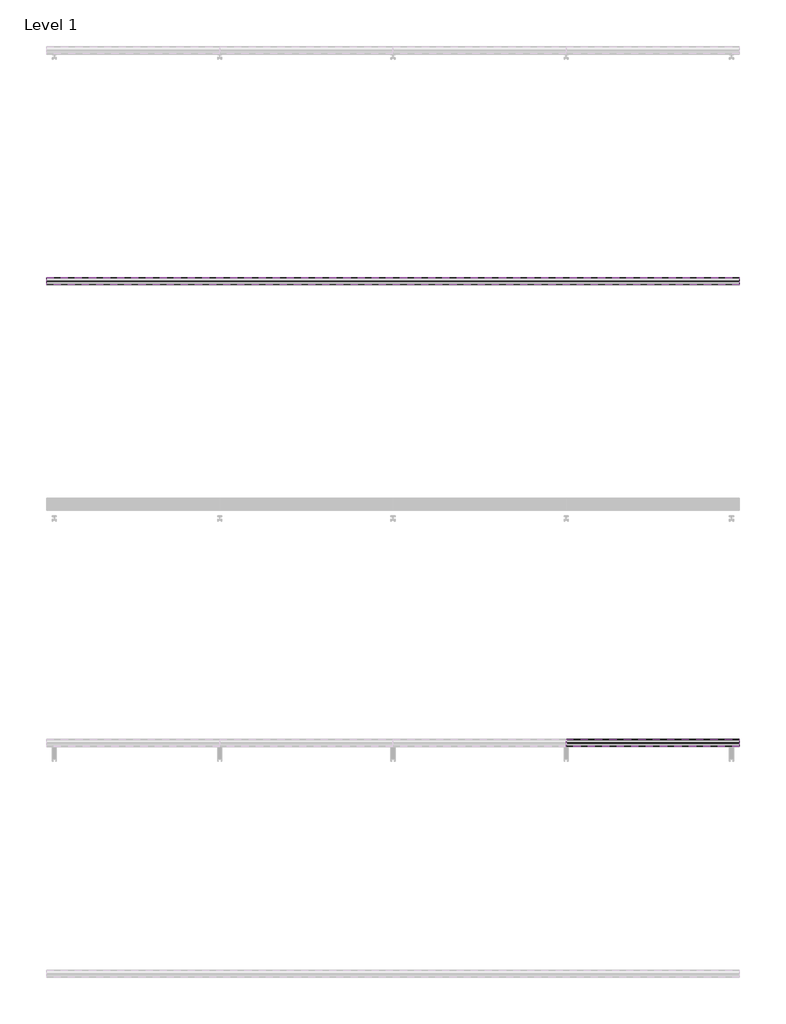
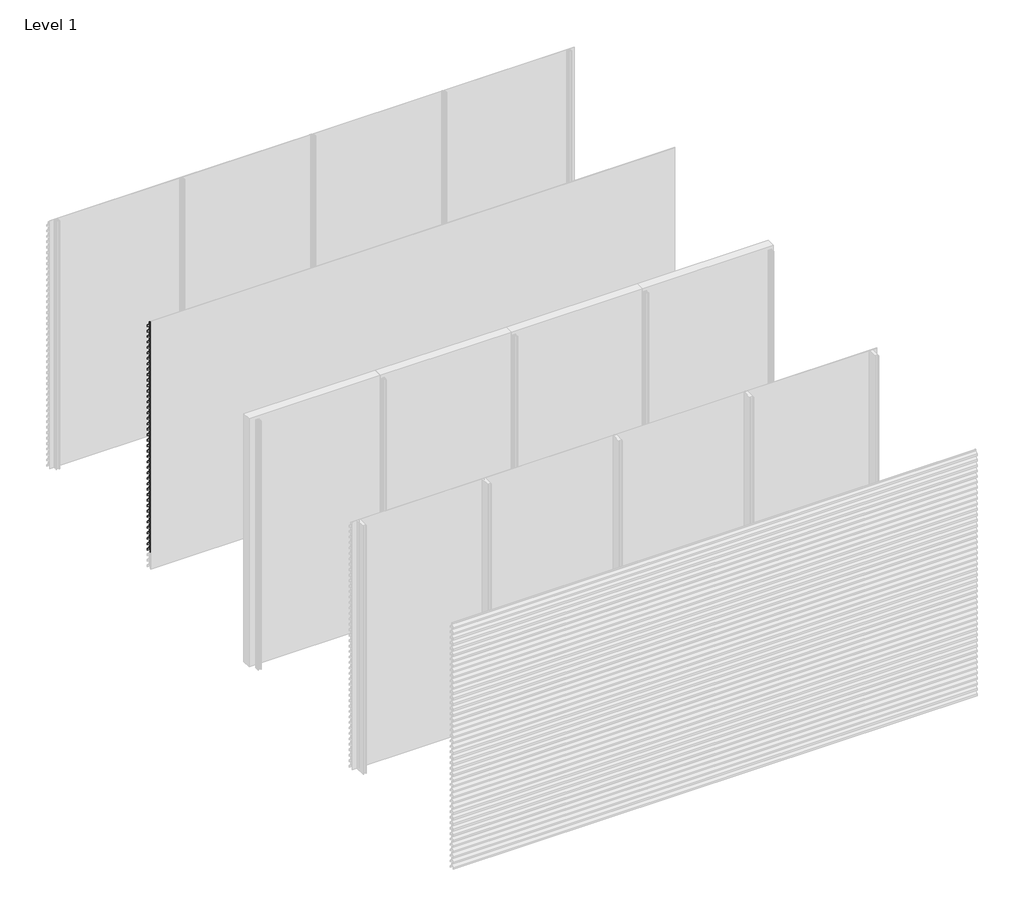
# One storey, part 9 of 35: 70 proxies.
"""IFC4 building model written with IfcOpenShell, lengths in millimetres."""

import ifcopenshell
import ifcopenshell.guid

model = None  # the IFC model being written
_history = None  # IfcOwnerHistory: only IFC2X3 demands one
_inside = {}  # id of a spatial element -> (the spatial element, [elements in it])
_under = {}  # id of a project, library or spatial element -> (it, [spatial elements below it])
_declared = {}  # id of a project -> (the project, [libraries it declares])
_typed = {}  # id of a type object -> (the type object, [elements of that type])
_made_of = {}  # id of a material, layer set ... -> (it, [elements and type objects made of it])


def new_model(schema):
    """Start an empty IFC model of exactly this schema.

    Asked for "IFC4X3", IfcOpenShell would pick the latest addendum, in which some entities
    have other attributes; the version numbers below select the first issue.
    IFC2X3 requires an IfcOwnerHistory on every rooted entity: one is made here for all.
    """
    global model, _history
    if schema == "IFC4X3":
        model = ifcopenshell.file(schema_version=(4, 3, 0, 0))
    else:
        model = ifcopenshell.file(schema=schema)
    _inside.clear()
    _under.clear()
    _declared.clear()
    _typed.clear()
    _made_of.clear()
    _history = None
    if model.schema == "IFC2X3":
        org = make("IfcOrganization", Name="unknown")
        user = make(
            "IfcPersonAndOrganization",
            ThePerson=make("IfcPerson", FamilyName="unknown"),
            TheOrganization=org,
        )
        app = make(
            "IfcApplication",
            ApplicationDeveloper=org,
            Version="unknown",
            ApplicationFullName="unknown",
            ApplicationIdentifier="unknown",
        )
        _history = make(
            "IfcOwnerHistory",
            OwningUser=user,
            OwningApplication=app,
            ChangeAction="ADDED",
            CreationDate=0,
        )
    return model


def make(cls, **values):
    """One entity of the class cls with the attributes given. An attribute that is None is left unset."""
    return model.create_entity(
        cls, **{name: value for name, value in values.items() if value is not None}
    )


def rooted(cls, **values):
    """An entity with a GlobalId (a new one), such as an element, a storey or a relation."""
    return make(cls, GlobalId=ifcopenshell.guid.new(), OwnerHistory=_history, **values)


def si_unit(unit_type, name, prefix=None):
    """IfcSIUnit, for example si_unit("LENGTHUNIT", "METRE", prefix="MILLI")."""
    return make("IfcSIUnit", UnitType=unit_type, Prefix=prefix, Name=name)


def assignment(units):
    """IfcUnitAssignment: the units of a project."""
    return None if units is None else make("IfcUnitAssignment", Units=units)


def point(xyz):
    """IfcCartesianPoint."""
    return None if xyz is None else make("IfcCartesianPoint", Coordinates=xyz)


def direction(xyz):
    """IfcDirection."""
    return None if xyz is None else make("IfcDirection", DirectionRatios=xyz)


def frame(location, z_axis=None, x_axis=None):
    """IfcAxis2Placement3D, a coordinate frame: its origin and axes. An axis left out is left unset."""
    return make(
        "IfcAxis2Placement3D",
        Location=point(location),
        Axis=direction(z_axis),
        RefDirection=direction(x_axis),
    )


def origin():
    """The frame at (0, 0, 0) with its axes left unset."""
    return frame((0.0, 0.0, 0.0))


def place(relative_to, where):
    """IfcLocalPlacement: puts the frame where relative to a parent placement (None: the world)."""
    return make(
        "IfcLocalPlacement", PlacementRelTo=relative_to, RelativePlacement=where
    )


def context(
    kind, dimensions, precision=None, world=None, true_north=None, identifier=None
):
    """IfcGeometricRepresentationContext, for example the 3D "Model" context."""
    return make(
        "IfcGeometricRepresentationContext",
        ContextIdentifier=identifier,
        ContextType=kind,
        CoordinateSpaceDimension=dimensions,
        Precision=precision,
        WorldCoordinateSystem=world,
        TrueNorth=true_north,
    )


def project(units=None, contexts=None):
    """IfcProject with its units and contexts."""
    return rooted(
        "IfcProject",
        Name="project",
        RepresentationContexts=contexts,
        UnitsInContext=assignment(units),
    )


def spatial(cls, under=None, at=None, **own):
    """A site, building, storey or space (cls), placed at a placement, below another one or the project."""
    s = rooted(cls, ObjectPlacement=at, **own)
    if under is not None:
        _under.setdefault(under.id(), (under, []))[1].append(s)
    return s


def polyline(points):
    """IfcPolyline through the points."""
    return make("IfcPolyline", Points=[point(p) for p in points])


def outline(outer, holes=None, kind="AREA"):
    """IfcArbitraryClosedProfileDef: a profile drawn as a closed curve; with holes, ...WithVoids."""
    if holes is None:
        return make("IfcArbitraryClosedProfileDef", ProfileType=kind, OuterCurve=outer)
    return make(
        "IfcArbitraryProfileDefWithVoids",
        ProfileType=kind,
        OuterCurve=outer,
        InnerCurves=holes,
    )


def extrude(swept, where, along, depth):
    """IfcExtrudedAreaSolid: the profile swept, set in the frame where, extruded along a direction by depth."""
    return make(
        "IfcExtrudedAreaSolid",
        SweptArea=swept,
        Position=where,
        ExtrudedDirection=direction(along),
        Depth=depth,
    )


def shape(context_of_items, identifier, shape_type, items):
    """IfcShapeRepresentation: the items that make up one representation, for example the "Body"."""
    return make(
        "IfcShapeRepresentation",
        ContextOfItems=context_of_items,
        RepresentationIdentifier=identifier,
        RepresentationType=shape_type,
        Items=items,
    )


def made_of(thing, what):
    """Note that an element or type object is made of a material, layer set ...; save() writes the relation."""
    if what is not None:
        _made_of.setdefault(what.id(), (what, []))[1].append(thing)
    return thing


def element(
    cls,
    number,
    at=None,
    inside=None,
    cuts=None,
    type_object=None,
    material=None,
    context=None,
    identifier="Body",
    shape_type=None,
    held_by="IfcProductDefinitionShape",
    body=None,
    shapes=None,
    **own,
):
    """One element of the class cls, such as IfcWall. Its Tag is "e" and its number.

    at: its placement. inside: the storey or other place that contains it. cuts: it is an
    opening in that element (IfcRelVoidsElement). A single representation is given by context,
    identifier, shape_type and body (its items); several are given by shapes. held_by: the class
    of the entity that holds the representations. save() writes the other relations.
    """
    e = rooted(cls, Tag="e%d" % number, ObjectPlacement=at, **own)
    if body is not None:
        shapes = [shape(context, identifier, shape_type, body)]
    if shapes is not None:
        e.Representation = make(held_by, Representations=shapes)
    if inside is not None:
        _inside.setdefault(inside.id(), (inside, []))[1].append(e)
    if cuts is not None:
        rooted(
            "IfcRelVoidsElement", RelatingBuildingElement=cuts, RelatedOpeningElement=e
        )
    if type_object is not None:
        _typed.setdefault(type_object.id(), (type_object, []))[1].append(e)
    return made_of(e, material)


def aggregate(whole, parts):
    """IfcRelAggregates: a whole, such as a stair, and the parts it consists of."""
    return rooted("IfcRelAggregates", RelatingObject=whole, RelatedObjects=parts)


def save(model, path):
    """Write the relations noted so far, then the file.

    IfcRelAggregates (storeys below a building ...), IfcRelContainedInSpatialStructure (elements
    in a storey), IfcRelDefinesByType, IfcRelAssociatesMaterial and IfcRelDeclares: one each for
    every whole, place, type object, material and project.
    """
    for whole, parts in _under.values():
        aggregate(whole, parts)
    for where, things in _inside.values():
        rooted(
            "IfcRelContainedInSpatialStructure",
            RelatedElements=things,
            RelatingStructure=where,
        )
    for kind, things in _typed.values():
        rooted("IfcRelDefinesByType", RelatedObjects=things, RelatingType=kind)
    for what, things in _made_of.values():
        rooted("IfcRelAssociatesMaterial", RelatedObjects=things, RelatingMaterial=what)
    for by, libraries in _declared.values():
        rooted("IfcRelDeclares", RelatingContext=by, RelatedDefinitions=libraries)
    model.write(path)


model = new_model("IFC4")

# Units and contexts
model_context = context("Model", 3, world=origin())
ifc_project = project(units=[si_unit("LENGTHUNIT", "METRE", prefix="MILLI")], contexts=[model_context])

# Site, building, storey
site = spatial("IfcSite", under=ifc_project)
building = spatial("IfcBuilding", under=site)
storey = spatial("IfcBuildingStorey", under=building, Name="Level 1", Elevation=0.0)

# Proxies
placement = place(None, origin())
element("IfcBuildingElementProxy", 1, Name="Wall Sweeps", at=placement, inside=storey, context=model_context, shape_type="SweptSolid", body=[
    extrude(outline(polyline([(-43936.0, 2916.0), (-43936.0, 2896.0), (-43937.25, 2896.0), (-43937.25, 2915.4342979), (-43968.1138939, 2948.531772), (-43996.7, 2928.4392868), (-43996.7, 2909.6629874), (-43998.0, 2908.8506572), (-43998.0, 2929.1145472), (-43968.537525, 2949.823011), (-43968.537525, 2970.0), (-43967.1772624, 2970.0), (-43967.1772624, 2949.4335207), (-43936.0, 2916.0)])), frame((0.0, 0.0, 0.0), z_axis=(1.0, 0.0, 0.0), x_axis=(0.0, 1.0, 0.0)), (0.0, 0.0, 1.0), 6000.0),
])
element("IfcBuildingElementProxy", 2, Name="Wall Sweeps", at=placement, inside=storey, context=model_context, shape_type="SweptSolid", body=[
    extrude(outline(polyline([(-43936.0, 2850.0), (-43936.0, 2830.0), (-43937.25, 2830.0), (-43937.25, 2849.4342979), (-43968.1138939, 2882.531772), (-43996.7, 2862.4392868), (-43996.7, 2843.6629874), (-43998.0, 2842.8506572), (-43998.0, 2863.1145472), (-43968.537525, 2883.823011), (-43968.537525, 2904.0), (-43967.1772624, 2904.0), (-43967.1772624, 2883.4335207), (-43936.0, 2850.0)])), frame((0.0, 0.0, 0.0), z_axis=(1.0, 0.0, 0.0), x_axis=(0.0, 1.0, 0.0)), (0.0, 0.0, 1.0), 6000.0),
])
element("IfcBuildingElementProxy", 3, Name="Wall Sweeps", at=placement, inside=storey, context=model_context, shape_type="SweptSolid", body=[
    extrude(outline(polyline([(-43936.0, 2784.0), (-43936.0, 2764.0), (-43937.25, 2764.0), (-43937.25, 2783.4342979), (-43968.1138939, 2816.531772), (-43996.7, 2796.4392868), (-43996.7, 2777.6629874), (-43998.0, 2776.8506572), (-43998.0, 2797.1145472), (-43968.537525, 2817.823011), (-43968.537525, 2838.0), (-43967.1772624, 2838.0), (-43967.1772624, 2817.4335207), (-43936.0, 2784.0)])), frame((0.0, 0.0, 0.0), z_axis=(1.0, 0.0, 0.0), x_axis=(0.0, 1.0, 0.0)), (0.0, 0.0, 1.0), 6000.0),
])
element("IfcBuildingElementProxy", 4, Name="Wall Sweeps", at=placement, inside=storey, context=model_context, shape_type="SweptSolid", body=[
    extrude(outline(polyline([(-43936.0, 2718.0), (-43936.0, 2698.0), (-43937.25, 2698.0), (-43937.25, 2717.4342979), (-43968.1138939, 2750.531772), (-43996.7, 2730.4392868), (-43996.7, 2711.6629874), (-43998.0, 2710.8506572), (-43998.0, 2731.1145472), (-43968.537525, 2751.823011), (-43968.537525, 2772.0), (-43967.1772624, 2772.0), (-43967.1772624, 2751.4335207), (-43936.0, 2718.0)])), frame((0.0, 0.0, 0.0), z_axis=(1.0, 0.0, 0.0), x_axis=(0.0, 1.0, 0.0)), (0.0, 0.0, 1.0), 6000.0),
])
element("IfcBuildingElementProxy", 5, Name="Wall Sweeps", at=placement, inside=storey, context=model_context, shape_type="SweptSolid", body=[
    extrude(outline(polyline([(-43936.0, 2652.0), (-43936.0, 2632.0), (-43937.25, 2632.0), (-43937.25, 2651.4342979), (-43968.1138939, 2684.531772), (-43996.7, 2664.4392868), (-43996.7, 2645.6629874), (-43998.0, 2644.8506572), (-43998.0, 2665.1145472), (-43968.537525, 2685.823011), (-43968.537525, 2706.0), (-43967.1772624, 2706.0), (-43967.1772624, 2685.4335207), (-43936.0, 2652.0)])), frame((0.0, 0.0, 0.0), z_axis=(1.0, 0.0, 0.0), x_axis=(0.0, 1.0, 0.0)), (0.0, 0.0, 1.0), 6000.0),
])
element("IfcBuildingElementProxy", 6, Name="Wall Sweeps", at=placement, inside=storey, context=model_context, shape_type="SweptSolid", body=[
    extrude(outline(polyline([(-43936.0, 2586.0), (-43936.0, 2566.0), (-43937.25, 2566.0), (-43937.25, 2585.4342979), (-43968.1138939, 2618.531772), (-43996.7, 2598.4392868), (-43996.7, 2579.6629874), (-43998.0, 2578.8506572), (-43998.0, 2599.1145472), (-43968.537525, 2619.823011), (-43968.537525, 2640.0), (-43967.1772624, 2640.0), (-43967.1772624, 2619.4335207), (-43936.0, 2586.0)])), frame((0.0, 0.0, 0.0), z_axis=(1.0, 0.0, 0.0), x_axis=(0.0, 1.0, 0.0)), (0.0, 0.0, 1.0), 6000.0),
])
element("IfcBuildingElementProxy", 7, Name="Wall Sweeps", at=placement, inside=storey, context=model_context, shape_type="SweptSolid", body=[
    extrude(outline(polyline([(-43936.0, 2520.0), (-43936.0, 2500.0), (-43937.25, 2500.0), (-43937.25, 2519.4342979), (-43968.1138939, 2552.531772), (-43996.7, 2532.4392868), (-43996.7, 2513.6629874), (-43998.0, 2512.8506572), (-43998.0, 2533.1145472), (-43968.537525, 2553.823011), (-43968.537525, 2574.0), (-43967.1772624, 2574.0), (-43967.1772624, 2553.4335207), (-43936.0, 2520.0)])), frame((0.0, 0.0, 0.0), z_axis=(1.0, 0.0, 0.0), x_axis=(0.0, 1.0, 0.0)), (0.0, 0.0, 1.0), 6000.0),
])
element("IfcBuildingElementProxy", 8, Name="Wall Sweeps", at=placement, inside=storey, context=model_context, shape_type="SweptSolid", body=[
    extrude(outline(polyline([(-43936.0, 2454.0), (-43936.0, 2434.0), (-43937.25, 2434.0), (-43937.25, 2453.4342979), (-43968.1138939, 2486.531772), (-43996.7, 2466.4392868), (-43996.7, 2447.6629874), (-43998.0, 2446.8506572), (-43998.0, 2467.1145472), (-43968.537525, 2487.823011), (-43968.537525, 2508.0), (-43967.1772624, 2508.0), (-43967.1772624, 2487.4335207), (-43936.0, 2454.0)])), frame((0.0, 0.0, 0.0), z_axis=(1.0, 0.0, 0.0), x_axis=(0.0, 1.0, 0.0)), (0.0, 0.0, 1.0), 6000.0),
])
element("IfcBuildingElementProxy", 9, Name="Wall Sweeps", at=placement, inside=storey, context=model_context, shape_type="SweptSolid", body=[
    extrude(outline(polyline([(-43936.0, 2388.0), (-43936.0, 2368.0), (-43937.25, 2368.0), (-43937.25, 2387.4342979), (-43968.1138939, 2420.531772), (-43996.7, 2400.4392868), (-43996.7, 2381.6629874), (-43998.0, 2380.8506572), (-43998.0, 2401.1145472), (-43968.537525, 2421.823011), (-43968.537525, 2442.0), (-43967.1772624, 2442.0), (-43967.1772624, 2421.4335207), (-43936.0, 2388.0)])), frame((0.0, 0.0, 0.0), z_axis=(1.0, 0.0, 0.0), x_axis=(0.0, 1.0, 0.0)), (0.0, 0.0, 1.0), 6000.0),
])
element("IfcBuildingElementProxy", 10, Name="Wall Sweeps", at=placement, inside=storey, context=model_context, shape_type="SweptSolid", body=[
    extrude(outline(polyline([(-43936.0, 2322.0), (-43936.0, 2302.0), (-43937.25, 2302.0), (-43937.25, 2321.4342979), (-43968.1138939, 2354.531772), (-43996.7, 2334.4392868), (-43996.7, 2315.6629874), (-43998.0, 2314.8506572), (-43998.0, 2335.1145472), (-43968.537525, 2355.823011), (-43968.537525, 2376.0), (-43967.1772624, 2376.0), (-43967.1772624, 2355.4335207), (-43936.0, 2322.0)])), frame((0.0, 0.0, 0.0), z_axis=(1.0, 0.0, 0.0), x_axis=(0.0, 1.0, 0.0)), (0.0, 0.0, 1.0), 6000.0),
])
element("IfcBuildingElementProxy", 11, Name="Wall Sweeps", at=placement, inside=storey, context=model_context, shape_type="SweptSolid", body=[
    extrude(outline(polyline([(-43936.0, 2256.0), (-43936.0, 2236.0), (-43937.25, 2236.0), (-43937.25, 2255.4342979), (-43968.1138939, 2288.531772), (-43996.7, 2268.4392868), (-43996.7, 2249.6629874), (-43998.0, 2248.8506572), (-43998.0, 2269.1145472), (-43968.537525, 2289.823011), (-43968.537525, 2310.0), (-43967.1772624, 2310.0), (-43967.1772624, 2289.4335207), (-43936.0, 2256.0)])), frame((0.0, 0.0, 0.0), z_axis=(1.0, 0.0, 0.0), x_axis=(0.0, 1.0, 0.0)), (0.0, 0.0, 1.0), 6000.0),
])
element("IfcBuildingElementProxy", 12, Name="Wall Sweeps", at=placement, inside=storey, context=model_context, shape_type="SweptSolid", body=[
    extrude(outline(polyline([(-43936.0, 2190.0), (-43936.0, 2170.0), (-43937.25, 2170.0), (-43937.25, 2189.4342979), (-43968.1138939, 2222.531772), (-43996.7, 2202.4392868), (-43996.7, 2183.6629874), (-43998.0, 2182.8506572), (-43998.0, 2203.1145472), (-43968.537525, 2223.823011), (-43968.537525, 2244.0), (-43967.1772624, 2244.0), (-43967.1772624, 2223.4335207), (-43936.0, 2190.0)])), frame((0.0, 0.0, 0.0), z_axis=(1.0, 0.0, 0.0), x_axis=(0.0, 1.0, 0.0)), (0.0, 0.0, 1.0), 6000.0),
])
element("IfcBuildingElementProxy", 13, Name="Wall Sweeps", at=placement, inside=storey, context=model_context, shape_type="SweptSolid", body=[
    extrude(outline(polyline([(-43936.0, 2124.0), (-43936.0, 2104.0), (-43937.25, 2104.0), (-43937.25, 2123.4342979), (-43968.1138939, 2156.531772), (-43996.7, 2136.4392868), (-43996.7, 2117.6629874), (-43998.0, 2116.8506572), (-43998.0, 2137.1145472), (-43968.537525, 2157.823011), (-43968.537525, 2178.0), (-43967.1772624, 2178.0), (-43967.1772624, 2157.4335207), (-43936.0, 2124.0)])), frame((0.0, 0.0, 0.0), z_axis=(1.0, 0.0, 0.0), x_axis=(0.0, 1.0, 0.0)), (0.0, 0.0, 1.0), 6000.0),
])
element("IfcBuildingElementProxy", 14, Name="Wall Sweeps", at=placement, inside=storey, context=model_context, shape_type="SweptSolid", body=[
    extrude(outline(polyline([(-43936.0, 2058.0), (-43936.0, 2038.0), (-43937.25, 2038.0), (-43937.25, 2057.4342979), (-43968.1138939, 2090.531772), (-43996.7, 2070.4392868), (-43996.7, 2051.6629874), (-43998.0, 2050.8506572), (-43998.0, 2071.1145472), (-43968.537525, 2091.823011), (-43968.537525, 2112.0), (-43967.1772624, 2112.0), (-43967.1772624, 2091.4335207), (-43936.0, 2058.0)])), frame((0.0, 0.0, 0.0), z_axis=(1.0, 0.0, 0.0), x_axis=(0.0, 1.0, 0.0)), (0.0, 0.0, 1.0), 6000.0),
])
element("IfcBuildingElementProxy", 15, Name="Wall Sweeps", at=placement, inside=storey, context=model_context, shape_type="SweptSolid", body=[
    extrude(outline(polyline([(-43936.0, 1992.0), (-43936.0, 1972.0), (-43937.25, 1972.0), (-43937.25, 1991.4342979), (-43968.1138939, 2024.531772), (-43996.7, 2004.4392868), (-43996.7, 1985.6629874), (-43998.0, 1984.8506572), (-43998.0, 2005.1145472), (-43968.537525, 2025.823011), (-43968.537525, 2046.0), (-43967.1772624, 2046.0), (-43967.1772624, 2025.4335207), (-43936.0, 1992.0)])), frame((0.0, 0.0, 0.0), z_axis=(1.0, 0.0, 0.0), x_axis=(0.0, 1.0, 0.0)), (0.0, 0.0, 1.0), 6000.0),
])
element("IfcBuildingElementProxy", 16, Name="Wall Sweeps", at=placement, inside=storey, context=model_context, shape_type="SweptSolid", body=[
    extrude(outline(polyline([(-43936.0, 1926.0), (-43936.0, 1906.0), (-43937.25, 1906.0), (-43937.25, 1925.4342979), (-43968.1138939, 1958.531772), (-43996.7, 1938.4392868), (-43996.7, 1919.6629874), (-43998.0, 1918.8506572), (-43998.0, 1939.1145472), (-43968.537525, 1959.823011), (-43968.537525, 1980.0), (-43967.1772624, 1980.0), (-43967.1772624, 1959.4335207), (-43936.0, 1926.0)])), frame((0.0, 0.0, 0.0), z_axis=(1.0, 0.0, 0.0), x_axis=(0.0, 1.0, 0.0)), (0.0, 0.0, 1.0), 6000.0),
])
element("IfcBuildingElementProxy", 17, Name="Wall Sweeps", at=placement, inside=storey, context=model_context, shape_type="SweptSolid", body=[
    extrude(outline(polyline([(-43936.0, 1860.0), (-43936.0, 1840.0), (-43937.25, 1840.0), (-43937.25, 1859.4342979), (-43968.1138939, 1892.531772), (-43996.7, 1872.4392868), (-43996.7, 1853.6629874), (-43998.0, 1852.8506572), (-43998.0, 1873.1145472), (-43968.537525, 1893.823011), (-43968.537525, 1914.0), (-43967.1772624, 1914.0), (-43967.1772624, 1893.4335207), (-43936.0, 1860.0)])), frame((0.0, 0.0, 0.0), z_axis=(1.0, 0.0, 0.0), x_axis=(0.0, 1.0, 0.0)), (0.0, 0.0, 1.0), 6000.0),
])
element("IfcBuildingElementProxy", 18, Name="Wall Sweeps", at=placement, inside=storey, context=model_context, shape_type="SweptSolid", body=[
    extrude(outline(polyline([(-43936.0, 1794.0), (-43936.0, 1774.0), (-43937.25, 1774.0), (-43937.25, 1793.4342979), (-43968.1138939, 1826.531772), (-43996.7, 1806.4392868), (-43996.7, 1787.6629874), (-43998.0, 1786.8506572), (-43998.0, 1807.1145472), (-43968.537525, 1827.823011), (-43968.537525, 1848.0), (-43967.1772624, 1848.0), (-43967.1772624, 1827.4335207), (-43936.0, 1794.0)])), frame((0.0, 0.0, 0.0), z_axis=(1.0, 0.0, 0.0), x_axis=(0.0, 1.0, 0.0)), (0.0, 0.0, 1.0), 6000.0),
])
element("IfcBuildingElementProxy", 19, Name="Wall Sweeps", at=placement, inside=storey, context=model_context, shape_type="SweptSolid", body=[
    extrude(outline(polyline([(-43936.0, 1728.0), (-43936.0, 1708.0), (-43937.25, 1708.0), (-43937.25, 1727.4342979), (-43968.1138939, 1760.531772), (-43996.7, 1740.4392868), (-43996.7, 1721.6629874), (-43998.0, 1720.8506572), (-43998.0, 1741.1145472), (-43968.537525, 1761.823011), (-43968.537525, 1782.0), (-43967.1772624, 1782.0), (-43967.1772624, 1761.4335207), (-43936.0, 1728.0)])), frame((0.0, 0.0, 0.0), z_axis=(1.0, 0.0, 0.0), x_axis=(0.0, 1.0, 0.0)), (0.0, 0.0, 1.0), 6000.0),
])
element("IfcBuildingElementProxy", 20, Name="Wall Sweeps", at=placement, inside=storey, context=model_context, shape_type="SweptSolid", body=[
    extrude(outline(polyline([(-43936.0, 1662.0), (-43936.0, 1642.0), (-43937.25, 1642.0), (-43937.25, 1661.4342979), (-43968.1138939, 1694.531772), (-43996.7, 1674.4392868), (-43996.7, 1655.6629874), (-43998.0, 1654.8506572), (-43998.0, 1675.1145472), (-43968.537525, 1695.823011), (-43968.537525, 1716.0), (-43967.1772624, 1716.0), (-43967.1772624, 1695.4335207), (-43936.0, 1662.0)])), frame((0.0, 0.0, 0.0), z_axis=(1.0, 0.0, 0.0), x_axis=(0.0, 1.0, 0.0)), (0.0, 0.0, 1.0), 6000.0),
])
element("IfcBuildingElementProxy", 21, Name="Wall Sweeps", at=placement, inside=storey, context=model_context, shape_type="SweptSolid", body=[
    extrude(outline(polyline([(-43936.0, 1596.0), (-43936.0, 1576.0), (-43937.25, 1576.0), (-43937.25, 1595.4342979), (-43968.1138939, 1628.531772), (-43996.7, 1608.4392868), (-43996.7, 1589.6629874), (-43998.0, 1588.8506572), (-43998.0, 1609.1145472), (-43968.537525, 1629.823011), (-43968.537525, 1650.0), (-43967.1772624, 1650.0), (-43967.1772624, 1629.4335207), (-43936.0, 1596.0)])), frame((0.0, 0.0, 0.0), z_axis=(1.0, 0.0, 0.0), x_axis=(0.0, 1.0, 0.0)), (0.0, 0.0, 1.0), 6000.0),
])
element("IfcBuildingElementProxy", 22, Name="Wall Sweeps", at=placement, inside=storey, context=model_context, shape_type="SweptSolid", body=[
    extrude(outline(polyline([(-43936.0, 1530.0), (-43936.0, 1510.0), (-43937.25, 1510.0), (-43937.25, 1529.4342979), (-43968.1138939, 1562.531772), (-43996.7, 1542.4392868), (-43996.7, 1523.6629874), (-43998.0, 1522.8506572), (-43998.0, 1543.1145472), (-43968.537525, 1563.823011), (-43968.537525, 1584.0), (-43967.1772624, 1584.0), (-43967.1772624, 1563.4335207), (-43936.0, 1530.0)])), frame((0.0, 0.0, 0.0), z_axis=(1.0, 0.0, 0.0), x_axis=(0.0, 1.0, 0.0)), (0.0, 0.0, 1.0), 6000.0),
])
element("IfcBuildingElementProxy", 23, Name="Wall Sweeps", at=placement, inside=storey, context=model_context, shape_type="SweptSolid", body=[
    extrude(outline(polyline([(-43936.0, 1464.0), (-43936.0, 1444.0), (-43937.25, 1444.0), (-43937.25, 1463.4342979), (-43968.1138939, 1496.531772), (-43996.7, 1476.4392868), (-43996.7, 1457.6629874), (-43998.0, 1456.8506572), (-43998.0, 1477.1145472), (-43968.537525, 1497.823011), (-43968.537525, 1518.0), (-43967.1772624, 1518.0), (-43967.1772624, 1497.4335207), (-43936.0, 1464.0)])), frame((0.0, 0.0, 0.0), z_axis=(1.0, 0.0, 0.0), x_axis=(0.0, 1.0, 0.0)), (0.0, 0.0, 1.0), 6000.0),
])
element("IfcBuildingElementProxy", 24, Name="Wall Sweeps", at=placement, inside=storey, context=model_context, shape_type="SweptSolid", body=[
    extrude(outline(polyline([(-43936.0, 1398.0), (-43936.0, 1378.0), (-43937.25, 1378.0), (-43937.25, 1397.4342979), (-43968.1138939, 1430.531772), (-43996.7, 1410.4392868), (-43996.7, 1391.6629874), (-43998.0, 1390.8506572), (-43998.0, 1411.1145472), (-43968.537525, 1431.823011), (-43968.537525, 1452.0), (-43967.1772624, 1452.0), (-43967.1772624, 1431.4335207), (-43936.0, 1398.0)])), frame((0.0, 0.0, 0.0), z_axis=(1.0, 0.0, 0.0), x_axis=(0.0, 1.0, 0.0)), (0.0, 0.0, 1.0), 6000.0),
])
element("IfcBuildingElementProxy", 25, Name="Wall Sweeps", at=placement, inside=storey, context=model_context, shape_type="SweptSolid", body=[
    extrude(outline(polyline([(-43936.0, 1332.0), (-43936.0, 1312.0), (-43937.25, 1312.0), (-43937.25, 1331.4342979), (-43968.1138939, 1364.531772), (-43996.7, 1344.4392868), (-43996.7, 1325.6629874), (-43998.0, 1324.8506572), (-43998.0, 1345.1145472), (-43968.537525, 1365.823011), (-43968.537525, 1386.0), (-43967.1772624, 1386.0), (-43967.1772624, 1365.4335207), (-43936.0, 1332.0)])), frame((0.0, 0.0, 0.0), z_axis=(1.0, 0.0, 0.0), x_axis=(0.0, 1.0, 0.0)), (0.0, 0.0, 1.0), 6000.0),
])
element("IfcBuildingElementProxy", 26, Name="Wall Sweeps", at=placement, inside=storey, context=model_context, shape_type="SweptSolid", body=[
    extrude(outline(polyline([(-43936.0, 1266.0), (-43936.0, 1246.0), (-43937.25, 1246.0), (-43937.25, 1265.4342979), (-43968.1138939, 1298.531772), (-43996.7, 1278.4392868), (-43996.7, 1259.6629874), (-43998.0, 1258.8506572), (-43998.0, 1279.1145472), (-43968.537525, 1299.823011), (-43968.537525, 1320.0), (-43967.1772624, 1320.0), (-43967.1772624, 1299.4335207), (-43936.0, 1266.0)])), frame((0.0, 0.0, 0.0), z_axis=(1.0, 0.0, 0.0), x_axis=(0.0, 1.0, 0.0)), (0.0, 0.0, 1.0), 6000.0),
])
element("IfcBuildingElementProxy", 27, Name="Wall Sweeps", at=placement, inside=storey, context=model_context, shape_type="SweptSolid", body=[
    extrude(outline(polyline([(-43936.0, 1200.0), (-43936.0, 1180.0), (-43937.25, 1180.0), (-43937.25, 1199.4342979), (-43968.1138939, 1232.531772), (-43996.7, 1212.4392868), (-43996.7, 1193.6629874), (-43998.0, 1192.8506572), (-43998.0, 1213.1145472), (-43968.537525, 1233.823011), (-43968.537525, 1254.0), (-43967.1772624, 1254.0), (-43967.1772624, 1233.4335207), (-43936.0, 1200.0)])), frame((0.0, 0.0, 0.0), z_axis=(1.0, 0.0, 0.0), x_axis=(0.0, 1.0, 0.0)), (0.0, 0.0, 1.0), 6000.0),
])
element("IfcBuildingElementProxy", 28, Name="Wall Sweeps", at=placement, inside=storey, context=model_context, shape_type="SweptSolid", body=[
    extrude(outline(polyline([(-43936.0, 1134.0), (-43936.0, 1114.0), (-43937.25, 1114.0), (-43937.25, 1133.4342979), (-43968.1138939, 1166.531772), (-43996.7, 1146.4392868), (-43996.7, 1127.6629874), (-43998.0, 1126.8506572), (-43998.0, 1147.1145472), (-43968.537525, 1167.823011), (-43968.537525, 1188.0), (-43967.1772624, 1188.0), (-43967.1772624, 1167.4335207), (-43936.0, 1134.0)])), frame((0.0, 0.0, 0.0), z_axis=(1.0, 0.0, 0.0), x_axis=(0.0, 1.0, 0.0)), (0.0, 0.0, 1.0), 6000.0),
])
element("IfcBuildingElementProxy", 29, Name="Wall Sweeps", at=placement, inside=storey, context=model_context, shape_type="SweptSolid", body=[
    extrude(outline(polyline([(-43936.0, 1068.0), (-43936.0, 1048.0), (-43937.25, 1048.0), (-43937.25, 1067.4342979), (-43968.1138939, 1100.531772), (-43996.7, 1080.4392868), (-43996.7, 1061.6629874), (-43998.0, 1060.8506572), (-43998.0, 1081.1145472), (-43968.537525, 1101.823011), (-43968.537525, 1122.0), (-43967.1772624, 1122.0), (-43967.1772624, 1101.4335207), (-43936.0, 1068.0)])), frame((0.0, 0.0, 0.0), z_axis=(1.0, 0.0, 0.0), x_axis=(0.0, 1.0, 0.0)), (0.0, 0.0, 1.0), 6000.0),
])
element("IfcBuildingElementProxy", 30, Name="Wall Sweeps", at=placement, inside=storey, context=model_context, shape_type="SweptSolid", body=[
    extrude(outline(polyline([(-43936.0, 1002.0), (-43936.0, 982.0), (-43937.25, 982.0), (-43937.25, 1001.4342979), (-43968.1138939, 1034.531772), (-43996.7, 1014.4392868), (-43996.7, 995.6629874), (-43998.0, 994.8506572), (-43998.0, 1015.1145472), (-43968.537525, 1035.823011), (-43968.537525, 1056.0), (-43967.1772624, 1056.0), (-43967.1772624, 1035.4335207), (-43936.0, 1002.0)])), frame((0.0, 0.0, 0.0), z_axis=(1.0, 0.0, 0.0), x_axis=(0.0, 1.0, 0.0)), (0.0, 0.0, 1.0), 6000.0),
])
element("IfcBuildingElementProxy", 31, Name="Wall Sweeps", at=placement, inside=storey, context=model_context, shape_type="SweptSolid", body=[
    extrude(outline(polyline([(-43936.0, 936.0), (-43936.0, 916.0), (-43937.25, 916.0), (-43937.25, 935.4342979), (-43968.1138939, 968.531772), (-43996.7, 948.4392868), (-43996.7, 929.6629874), (-43998.0, 928.8506572), (-43998.0, 949.1145472), (-43968.537525, 969.823011), (-43968.537525, 990.0), (-43967.1772624, 990.0), (-43967.1772624, 969.4335207), (-43936.0, 936.0)])), frame((0.0, 0.0, 0.0), z_axis=(1.0, 0.0, 0.0), x_axis=(0.0, 1.0, 0.0)), (0.0, 0.0, 1.0), 6000.0),
])
element("IfcBuildingElementProxy", 32, Name="Wall Sweeps", at=placement, inside=storey, context=model_context, shape_type="SweptSolid", body=[
    extrude(outline(polyline([(-43936.0, 870.0), (-43936.0, 850.0), (-43937.25, 850.0), (-43937.25, 869.4342979), (-43968.1138939, 902.531772), (-43996.7, 882.4392868), (-43996.7, 863.6629874), (-43998.0, 862.8506572), (-43998.0, 883.1145472), (-43968.537525, 903.823011), (-43968.537525, 924.0), (-43967.1772624, 924.0), (-43967.1772624, 903.4335207), (-43936.0, 870.0)])), frame((0.0, 0.0, 0.0), z_axis=(1.0, 0.0, 0.0), x_axis=(0.0, 1.0, 0.0)), (0.0, 0.0, 1.0), 6000.0),
])
element("IfcBuildingElementProxy", 33, Name="Wall Sweeps", at=placement, inside=storey, context=model_context, shape_type="SweptSolid", body=[
    extrude(outline(polyline([(-43936.0, 804.0), (-43936.0, 784.0), (-43937.25, 784.0), (-43937.25, 803.4342979), (-43968.1138939, 836.531772), (-43996.7, 816.4392868), (-43996.7, 797.6629874), (-43998.0, 796.8506572), (-43998.0, 817.1145472), (-43968.537525, 837.823011), (-43968.537525, 858.0), (-43967.1772624, 858.0), (-43967.1772624, 837.4335207), (-43936.0, 804.0)])), frame((0.0, 0.0, 0.0), z_axis=(1.0, 0.0, 0.0), x_axis=(0.0, 1.0, 0.0)), (0.0, 0.0, 1.0), 6000.0),
])
element("IfcBuildingElementProxy", 34, Name="Wall Sweeps", at=placement, inside=storey, context=model_context, shape_type="SweptSolid", body=[
    extrude(outline(polyline([(-43936.0, 738.0), (-43936.0, 718.0), (-43937.25, 718.0), (-43937.25, 737.4342979), (-43968.1138939, 770.531772), (-43996.7, 750.4392868), (-43996.7, 731.6629874), (-43998.0, 730.8506572), (-43998.0, 751.1145472), (-43968.537525, 771.823011), (-43968.537525, 792.0), (-43967.1772624, 792.0), (-43967.1772624, 771.4335207), (-43936.0, 738.0)])), frame((0.0, 0.0, 0.0), z_axis=(1.0, 0.0, 0.0), x_axis=(0.0, 1.0, 0.0)), (0.0, 0.0, 1.0), 6000.0),
])
element("IfcBuildingElementProxy", 35, Name="Wall Sweeps", at=placement, inside=storey, context=model_context, shape_type="SweptSolid", body=[
    extrude(outline(polyline([(-43936.0, 672.0), (-43936.0, 652.0), (-43937.25, 652.0), (-43937.25, 671.4342979), (-43968.1138939, 704.531772), (-43996.7, 684.4392868), (-43996.7, 665.6629874), (-43998.0, 664.8506572), (-43998.0, 685.1145472), (-43968.537525, 705.823011), (-43968.537525, 726.0), (-43967.1772624, 726.0), (-43967.1772624, 705.4335207), (-43936.0, 672.0)])), frame((0.0, 0.0, 0.0), z_axis=(1.0, 0.0, 0.0), x_axis=(0.0, 1.0, 0.0)), (0.0, 0.0, 1.0), 6000.0),
])
element("IfcBuildingElementProxy", 36, Name="Wall Sweeps", at=placement, inside=storey, context=model_context, shape_type="SweptSolid", body=[
    extrude(outline(polyline([(-43936.0, 606.0), (-43936.0, 586.0), (-43937.25, 586.0), (-43937.25, 605.4342979), (-43968.1138939, 638.531772), (-43996.7, 618.4392868), (-43996.7, 599.6629874), (-43998.0, 598.8506572), (-43998.0, 619.1145472), (-43968.537525, 639.823011), (-43968.537525, 660.0), (-43967.1772624, 660.0), (-43967.1772624, 639.4335207), (-43936.0, 606.0)])), frame((0.0, 0.0, 0.0), z_axis=(1.0, 0.0, 0.0), x_axis=(0.0, 1.0, 0.0)), (0.0, 0.0, 1.0), 6000.0),
])
element("IfcBuildingElementProxy", 37, Name="Wall Sweeps", at=placement, inside=storey, context=model_context, shape_type="SweptSolid", body=[
    extrude(outline(polyline([(-43936.0, 540.0), (-43936.0, 520.0), (-43937.25, 520.0), (-43937.25, 539.4342979), (-43968.1138939, 572.531772), (-43996.7, 552.4392868), (-43996.7, 533.6629874), (-43998.0, 532.8506572), (-43998.0, 553.1145472), (-43968.537525, 573.823011), (-43968.537525, 594.0), (-43967.1772624, 594.0), (-43967.1772624, 573.4335207), (-43936.0, 540.0)])), frame((0.0, 0.0, 0.0), z_axis=(1.0, 0.0, 0.0), x_axis=(0.0, 1.0, 0.0)), (0.0, 0.0, 1.0), 6000.0),
])
element("IfcBuildingElementProxy", 38, Name="Wall Sweeps", at=placement, inside=storey, context=model_context, shape_type="SweptSolid", body=[
    extrude(outline(polyline([(-43936.0, 474.0), (-43936.0, 454.0), (-43937.25, 454.0), (-43937.25, 473.4342979), (-43968.1138939, 506.531772), (-43996.7, 486.4392868), (-43996.7, 467.6629874), (-43998.0, 466.8506572), (-43998.0, 487.1145472), (-43968.537525, 507.823011), (-43968.537525, 528.0), (-43967.1772624, 528.0), (-43967.1772624, 507.4335207), (-43936.0, 474.0)])), frame((0.0, 0.0, 0.0), z_axis=(1.0, 0.0, 0.0), x_axis=(0.0, 1.0, 0.0)), (0.0, 0.0, 1.0), 6000.0),
])
element("IfcBuildingElementProxy", 39, Name="Wall Sweeps", at=placement, inside=storey, context=model_context, shape_type="SweptSolid", body=[
    extrude(outline(polyline([(-43936.0, 408.0), (-43936.0, 388.0), (-43937.25, 388.0), (-43937.25, 407.4342979), (-43968.1138939, 440.531772), (-43996.7, 420.4392868), (-43996.7, 401.6629874), (-43998.0, 400.8506572), (-43998.0, 421.1145472), (-43968.537525, 441.823011), (-43968.537525, 462.0), (-43967.1772624, 462.0), (-43967.1772624, 441.4335207), (-43936.0, 408.0)])), frame((0.0, 0.0, 0.0), z_axis=(1.0, 0.0, 0.0), x_axis=(0.0, 1.0, 0.0)), (0.0, 0.0, 1.0), 6000.0),
])
element("IfcBuildingElementProxy", 40, Name="Wall Sweeps", at=placement, inside=storey, context=model_context, shape_type="SweptSolid", body=[
    extrude(outline(polyline([(-43936.0, 342.0), (-43936.0, 322.0), (-43937.25, 322.0), (-43937.25, 341.4342979), (-43968.1138939, 374.531772), (-43996.7, 354.4392868), (-43996.7, 335.6629874), (-43998.0, 334.8506572), (-43998.0, 355.1145472), (-43968.537525, 375.823011), (-43968.537525, 396.0), (-43967.1772624, 396.0), (-43967.1772624, 375.4335207), (-43936.0, 342.0)])), frame((0.0, 0.0, 0.0), z_axis=(1.0, 0.0, 0.0), x_axis=(0.0, 1.0, 0.0)), (0.0, 0.0, 1.0), 6000.0),
])
element("IfcBuildingElementProxy", 41, Name="Wall Sweeps", at=placement, inside=storey, context=model_context, shape_type="SweptSolid", body=[
    extrude(outline(polyline([(-43936.0, 276.0), (-43936.0, 256.0), (-43937.25, 256.0), (-43937.25, 275.4342979), (-43968.1138939, 308.531772), (-43996.7, 288.4392868), (-43996.7, 269.6629874), (-43998.0, 268.8506572), (-43998.0, 289.1145472), (-43968.537525, 309.823011), (-43968.537525, 330.0), (-43967.1772624, 330.0), (-43967.1772624, 309.4335207), (-43936.0, 276.0)])), frame((0.0, 0.0, 0.0), z_axis=(1.0, 0.0, 0.0), x_axis=(0.0, 1.0, 0.0)), (0.0, 0.0, 1.0), 6000.0),
])
element("IfcBuildingElementProxy", 42, Name="Wall Sweeps", at=placement, inside=storey, context=model_context, shape_type="SweptSolid", body=[
    extrude(outline(polyline([(-43936.0, 210.0), (-43936.0, 190.0), (-43937.25, 190.0), (-43937.25, 209.4342979), (-43968.1138939, 242.531772), (-43996.7, 222.4392868), (-43996.7, 203.6629874), (-43998.0, 202.8506572), (-43998.0, 223.1145472), (-43968.537525, 243.823011), (-43968.537525, 264.0), (-43967.1772624, 264.0), (-43967.1772624, 243.4335207), (-43936.0, 210.0)])), frame((0.0, 0.0, 0.0), z_axis=(1.0, 0.0, 0.0), x_axis=(0.0, 1.0, 0.0)), (0.0, 0.0, 1.0), 6000.0),
])
element("IfcBuildingElementProxy", 43, Name="Wall Sweeps", at=placement, inside=storey, context=model_context, shape_type="SweptSolid", body=[
    extrude(outline(polyline([(-47936.0, 1794.0), (-47936.0, 1774.0), (-47937.25, 1774.0), (-47937.25, 1793.4342979), (-47968.1138939, 1826.531772), (-47996.7, 1806.4392868), (-47996.7, 1787.6629874), (-47998.0, 1786.8506572), (-47998.0, 1807.1145472), (-47968.537525, 1827.823011), (-47968.537525, 1848.0), (-47967.1772624, 1848.0), (-47967.1772624, 1827.4335207), (-47936.0, 1794.0)])), frame((4500.0, 0.0, 0.0), z_axis=(1.0, 0.0, 0.0), x_axis=(0.0, 1.0, 0.0)), (0.0, 0.0, 1.0), 1500.0),
])
element("IfcBuildingElementProxy", 44, Name="Wall Sweeps", at=placement, inside=storey, context=model_context, shape_type="SweptSolid", body=[
    extrude(outline(polyline([(-47936.0, 1728.0), (-47936.0, 1708.0), (-47937.25, 1708.0), (-47937.25, 1727.4342979), (-47968.1138939, 1760.531772), (-47996.7, 1740.4392868), (-47996.7, 1721.6629874), (-47998.0, 1720.8506572), (-47998.0, 1741.1145472), (-47968.537525, 1761.823011), (-47968.537525, 1782.0), (-47967.1772624, 1782.0), (-47967.1772624, 1761.4335207), (-47936.0, 1728.0)])), frame((4500.0, 0.0, 0.0), z_axis=(1.0, 0.0, 0.0), x_axis=(0.0, 1.0, 0.0)), (0.0, 0.0, 1.0), 1500.0),
])
element("IfcBuildingElementProxy", 45, Name="Wall Sweeps", at=placement, inside=storey, context=model_context, shape_type="SweptSolid", body=[
    extrude(outline(polyline([(-47936.0, 1662.0), (-47936.0, 1642.0), (-47937.25, 1642.0), (-47937.25, 1661.4342979), (-47968.1138939, 1694.531772), (-47996.7, 1674.4392868), (-47996.7, 1655.6629874), (-47998.0, 1654.8506572), (-47998.0, 1675.1145472), (-47968.537525, 1695.823011), (-47968.537525, 1716.0), (-47967.1772624, 1716.0), (-47967.1772624, 1695.4335207), (-47936.0, 1662.0)])), frame((4500.0, 0.0, 0.0), z_axis=(1.0, 0.0, 0.0), x_axis=(0.0, 1.0, 0.0)), (0.0, 0.0, 1.0), 1500.0),
])
element("IfcBuildingElementProxy", 46, Name="Wall Sweeps", at=placement, inside=storey, context=model_context, shape_type="SweptSolid", body=[
    extrude(outline(polyline([(-47936.0, 1596.0), (-47936.0, 1576.0), (-47937.25, 1576.0), (-47937.25, 1595.4342979), (-47968.1138939, 1628.531772), (-47996.7, 1608.4392868), (-47996.7, 1589.6629874), (-47998.0, 1588.8506572), (-47998.0, 1609.1145472), (-47968.537525, 1629.823011), (-47968.537525, 1650.0), (-47967.1772624, 1650.0), (-47967.1772624, 1629.4335207), (-47936.0, 1596.0)])), frame((4500.0, 0.0, 0.0), z_axis=(1.0, 0.0, 0.0), x_axis=(0.0, 1.0, 0.0)), (0.0, 0.0, 1.0), 1500.0),
])
element("IfcBuildingElementProxy", 47, Name="Wall Sweeps", at=placement, inside=storey, context=model_context, shape_type="SweptSolid", body=[
    extrude(outline(polyline([(-47936.0, 1530.0), (-47936.0, 1510.0), (-47937.25, 1510.0), (-47937.25, 1529.4342979), (-47968.1138939, 1562.531772), (-47996.7, 1542.4392868), (-47996.7, 1523.6629874), (-47998.0, 1522.8506572), (-47998.0, 1543.1145472), (-47968.537525, 1563.823011), (-47968.537525, 1584.0), (-47967.1772624, 1584.0), (-47967.1772624, 1563.4335207), (-47936.0, 1530.0)])), frame((4500.0, 0.0, 0.0), z_axis=(1.0, 0.0, 0.0), x_axis=(0.0, 1.0, 0.0)), (0.0, 0.0, 1.0), 1500.0),
])
element("IfcBuildingElementProxy", 48, Name="Wall Sweeps", at=placement, inside=storey, context=model_context, shape_type="SweptSolid", body=[
    extrude(outline(polyline([(-47936.0, 1464.0), (-47936.0, 1444.0), (-47937.25, 1444.0), (-47937.25, 1463.4342979), (-47968.1138939, 1496.531772), (-47996.7, 1476.4392868), (-47996.7, 1457.6629874), (-47998.0, 1456.8506572), (-47998.0, 1477.1145472), (-47968.537525, 1497.823011), (-47968.537525, 1518.0), (-47967.1772624, 1518.0), (-47967.1772624, 1497.4335207), (-47936.0, 1464.0)])), frame((4500.0, 0.0, 0.0), z_axis=(1.0, 0.0, 0.0), x_axis=(0.0, 1.0, 0.0)), (0.0, 0.0, 1.0), 1500.0),
])
element("IfcBuildingElementProxy", 49, Name="Wall Sweeps", at=placement, inside=storey, context=model_context, shape_type="SweptSolid", body=[
    extrude(outline(polyline([(-47936.0, 1398.0), (-47936.0, 1378.0), (-47937.25, 1378.0), (-47937.25, 1397.4342979), (-47968.1138939, 1430.531772), (-47996.7, 1410.4392868), (-47996.7, 1391.6629874), (-47998.0, 1390.8506572), (-47998.0, 1411.1145472), (-47968.537525, 1431.823011), (-47968.537525, 1452.0), (-47967.1772624, 1452.0), (-47967.1772624, 1431.4335207), (-47936.0, 1398.0)])), frame((4500.0, 0.0, 0.0), z_axis=(1.0, 0.0, 0.0), x_axis=(0.0, 1.0, 0.0)), (0.0, 0.0, 1.0), 1500.0),
])
element("IfcBuildingElementProxy", 50, Name="Wall Sweeps", at=placement, inside=storey, context=model_context, shape_type="SweptSolid", body=[
    extrude(outline(polyline([(-47936.0, 1332.0), (-47936.0, 1312.0), (-47937.25, 1312.0), (-47937.25, 1331.4342979), (-47968.1138939, 1364.531772), (-47996.7, 1344.4392868), (-47996.7, 1325.6629874), (-47998.0, 1324.8506572), (-47998.0, 1345.1145472), (-47968.537525, 1365.823011), (-47968.537525, 1386.0), (-47967.1772624, 1386.0), (-47967.1772624, 1365.4335207), (-47936.0, 1332.0)])), frame((4500.0, 0.0, 0.0), z_axis=(1.0, 0.0, 0.0), x_axis=(0.0, 1.0, 0.0)), (0.0, 0.0, 1.0), 1500.0),
])
element("IfcBuildingElementProxy", 51, Name="Wall Sweeps", at=placement, inside=storey, context=model_context, shape_type="SweptSolid", body=[
    extrude(outline(polyline([(-47936.0, 1266.0), (-47936.0, 1246.0), (-47937.25, 1246.0), (-47937.25, 1265.4342979), (-47968.1138939, 1298.531772), (-47996.7, 1278.4392868), (-47996.7, 1259.6629874), (-47998.0, 1258.8506572), (-47998.0, 1279.1145472), (-47968.537525, 1299.823011), (-47968.537525, 1320.0), (-47967.1772624, 1320.0), (-47967.1772624, 1299.4335207), (-47936.0, 1266.0)])), frame((4500.0, 0.0, 0.0), z_axis=(1.0, 0.0, 0.0), x_axis=(0.0, 1.0, 0.0)), (0.0, 0.0, 1.0), 1500.0),
])
element("IfcBuildingElementProxy", 52, Name="Wall Sweeps", at=placement, inside=storey, context=model_context, shape_type="SweptSolid", body=[
    extrude(outline(polyline([(-47936.0, 1200.0), (-47936.0, 1180.0), (-47937.25, 1180.0), (-47937.25, 1199.4342979), (-47968.1138939, 1232.531772), (-47996.7, 1212.4392868), (-47996.7, 1193.6629874), (-47998.0, 1192.8506572), (-47998.0, 1213.1145472), (-47968.537525, 1233.823011), (-47968.537525, 1254.0), (-47967.1772624, 1254.0), (-47967.1772624, 1233.4335207), (-47936.0, 1200.0)])), frame((4500.0, 0.0, 0.0), z_axis=(1.0, 0.0, 0.0), x_axis=(0.0, 1.0, 0.0)), (0.0, 0.0, 1.0), 1500.0),
])
element("IfcBuildingElementProxy", 53, Name="Wall Sweeps", at=placement, inside=storey, context=model_context, shape_type="SweptSolid", body=[
    extrude(outline(polyline([(-47936.0, 1134.0), (-47936.0, 1114.0), (-47937.25, 1114.0), (-47937.25, 1133.4342979), (-47968.1138939, 1166.531772), (-47996.7, 1146.4392868), (-47996.7, 1127.6629874), (-47998.0, 1126.8506572), (-47998.0, 1147.1145472), (-47968.537525, 1167.823011), (-47968.537525, 1188.0), (-47967.1772624, 1188.0), (-47967.1772624, 1167.4335207), (-47936.0, 1134.0)])), frame((4500.0, 0.0, 0.0), z_axis=(1.0, 0.0, 0.0), x_axis=(0.0, 1.0, 0.0)), (0.0, 0.0, 1.0), 1500.0),
])
element("IfcBuildingElementProxy", 54, Name="Wall Sweeps", at=placement, inside=storey, context=model_context, shape_type="SweptSolid", body=[
    extrude(outline(polyline([(-47936.0, 1068.0), (-47936.0, 1048.0), (-47937.25, 1048.0), (-47937.25, 1067.4342979), (-47968.1138939, 1100.531772), (-47996.7, 1080.4392868), (-47996.7, 1061.6629874), (-47998.0, 1060.8506572), (-47998.0, 1081.1145472), (-47968.537525, 1101.823011), (-47968.537525, 1122.0), (-47967.1772624, 1122.0), (-47967.1772624, 1101.4335207), (-47936.0, 1068.0)])), frame((4500.0, 0.0, 0.0), z_axis=(1.0, 0.0, 0.0), x_axis=(0.0, 1.0, 0.0)), (0.0, 0.0, 1.0), 1500.0),
])
element("IfcBuildingElementProxy", 55, Name="Wall Sweeps", at=placement, inside=storey, context=model_context, shape_type="SweptSolid", body=[
    extrude(outline(polyline([(-47936.0, 1002.0), (-47936.0, 982.0), (-47937.25, 982.0), (-47937.25, 1001.4342979), (-47968.1138939, 1034.531772), (-47996.7, 1014.4392868), (-47996.7, 995.6629874), (-47998.0, 994.8506572), (-47998.0, 1015.1145472), (-47968.537525, 1035.823011), (-47968.537525, 1056.0), (-47967.1772624, 1056.0), (-47967.1772624, 1035.4335207), (-47936.0, 1002.0)])), frame((4500.0, 0.0, 0.0), z_axis=(1.0, 0.0, 0.0), x_axis=(0.0, 1.0, 0.0)), (0.0, 0.0, 1.0), 1500.0),
])
element("IfcBuildingElementProxy", 56, Name="Wall Sweeps", at=placement, inside=storey, context=model_context, shape_type="SweptSolid", body=[
    extrude(outline(polyline([(-47936.0, 936.0), (-47936.0, 916.0), (-47937.25, 916.0), (-47937.25, 935.4342979), (-47968.1138939, 968.531772), (-47996.7, 948.4392868), (-47996.7, 929.6629874), (-47998.0, 928.8506572), (-47998.0, 949.1145472), (-47968.537525, 969.823011), (-47968.537525, 990.0), (-47967.1772624, 990.0), (-47967.1772624, 969.4335207), (-47936.0, 936.0)])), frame((4500.0, 0.0, 0.0), z_axis=(1.0, 0.0, 0.0), x_axis=(0.0, 1.0, 0.0)), (0.0, 0.0, 1.0), 1500.0),
])
element("IfcBuildingElementProxy", 57, Name="Wall Sweeps", at=placement, inside=storey, context=model_context, shape_type="SweptSolid", body=[
    extrude(outline(polyline([(-47936.0, 870.0), (-47936.0, 850.0), (-47937.25, 850.0), (-47937.25, 869.4342979), (-47968.1138939, 902.531772), (-47996.7, 882.4392868), (-47996.7, 863.6629874), (-47998.0, 862.8506572), (-47998.0, 883.1145472), (-47968.537525, 903.823011), (-47968.537525, 924.0), (-47967.1772624, 924.0), (-47967.1772624, 903.4335207), (-47936.0, 870.0)])), frame((4500.0, 0.0, 0.0), z_axis=(1.0, 0.0, 0.0), x_axis=(0.0, 1.0, 0.0)), (0.0, 0.0, 1.0), 1500.0),
])
element("IfcBuildingElementProxy", 58, Name="Wall Sweeps", at=placement, inside=storey, context=model_context, shape_type="SweptSolid", body=[
    extrude(outline(polyline([(-47936.0, 804.0), (-47936.0, 784.0), (-47937.25, 784.0), (-47937.25, 803.4342979), (-47968.1138939, 836.531772), (-47996.7, 816.4392868), (-47996.7, 797.6629874), (-47998.0, 796.8506572), (-47998.0, 817.1145472), (-47968.537525, 837.823011), (-47968.537525, 858.0), (-47967.1772624, 858.0), (-47967.1772624, 837.4335207), (-47936.0, 804.0)])), frame((4500.0, 0.0, 0.0), z_axis=(1.0, 0.0, 0.0), x_axis=(0.0, 1.0, 0.0)), (0.0, 0.0, 1.0), 1500.0),
])
element("IfcBuildingElementProxy", 59, Name="Wall Sweeps", at=placement, inside=storey, context=model_context, shape_type="SweptSolid", body=[
    extrude(outline(polyline([(-47936.0, 738.0), (-47936.0, 718.0), (-47937.25, 718.0), (-47937.25, 737.4342979), (-47968.1138939, 770.531772), (-47996.7, 750.4392868), (-47996.7, 731.6629874), (-47998.0, 730.8506572), (-47998.0, 751.1145472), (-47968.537525, 771.823011), (-47968.537525, 792.0), (-47967.1772624, 792.0), (-47967.1772624, 771.4335207), (-47936.0, 738.0)])), frame((4500.0, 0.0, 0.0), z_axis=(1.0, 0.0, 0.0), x_axis=(0.0, 1.0, 0.0)), (0.0, 0.0, 1.0), 1500.0),
])
element("IfcBuildingElementProxy", 60, Name="Wall Sweeps", at=placement, inside=storey, context=model_context, shape_type="SweptSolid", body=[
    extrude(outline(polyline([(-47936.0, 672.0), (-47936.0, 652.0), (-47937.25, 652.0), (-47937.25, 671.4342979), (-47968.1138939, 704.531772), (-47996.7, 684.4392868), (-47996.7, 665.6629874), (-47998.0, 664.8506572), (-47998.0, 685.1145472), (-47968.537525, 705.823011), (-47968.537525, 726.0), (-47967.1772624, 726.0), (-47967.1772624, 705.4335207), (-47936.0, 672.0)])), frame((4500.0, 0.0, 0.0), z_axis=(1.0, 0.0, 0.0), x_axis=(0.0, 1.0, 0.0)), (0.0, 0.0, 1.0), 1500.0),
])
element("IfcBuildingElementProxy", 61, Name="Wall Sweeps", at=placement, inside=storey, context=model_context, shape_type="SweptSolid", body=[
    extrude(outline(polyline([(-47936.0, 606.0), (-47936.0, 586.0), (-47937.25, 586.0), (-47937.25, 605.4342979), (-47968.1138939, 638.531772), (-47996.7, 618.4392868), (-47996.7, 599.6629874), (-47998.0, 598.8506572), (-47998.0, 619.1145472), (-47968.537525, 639.823011), (-47968.537525, 660.0), (-47967.1772624, 660.0), (-47967.1772624, 639.4335207), (-47936.0, 606.0)])), frame((4500.0, 0.0, 0.0), z_axis=(1.0, 0.0, 0.0), x_axis=(0.0, 1.0, 0.0)), (0.0, 0.0, 1.0), 1500.0),
])
element("IfcBuildingElementProxy", 62, Name="Wall Sweeps", at=placement, inside=storey, context=model_context, shape_type="SweptSolid", body=[
    extrude(outline(polyline([(-47936.0, 540.0), (-47936.0, 520.0), (-47937.25, 520.0), (-47937.25, 539.4342979), (-47968.1138939, 572.531772), (-47996.7, 552.4392868), (-47996.7, 533.6629874), (-47998.0, 532.8506572), (-47998.0, 553.1145472), (-47968.537525, 573.823011), (-47968.537525, 594.0), (-47967.1772624, 594.0), (-47967.1772624, 573.4335207), (-47936.0, 540.0)])), frame((4500.0, 0.0, 0.0), z_axis=(1.0, 0.0, 0.0), x_axis=(0.0, 1.0, 0.0)), (0.0, 0.0, 1.0), 1500.0),
])
element("IfcBuildingElementProxy", 63, Name="Wall Sweeps", at=placement, inside=storey, context=model_context, shape_type="SweptSolid", body=[
    extrude(outline(polyline([(-47936.0, 474.0), (-47936.0, 454.0), (-47937.25, 454.0), (-47937.25, 473.4342979), (-47968.1138939, 506.531772), (-47996.7, 486.4392868), (-47996.7, 467.6629874), (-47998.0, 466.8506572), (-47998.0, 487.1145472), (-47968.537525, 507.823011), (-47968.537525, 528.0), (-47967.1772624, 528.0), (-47967.1772624, 507.4335207), (-47936.0, 474.0)])), frame((4500.0, 0.0, 0.0), z_axis=(1.0, 0.0, 0.0), x_axis=(0.0, 1.0, 0.0)), (0.0, 0.0, 1.0), 1500.0),
])
element("IfcBuildingElementProxy", 64, Name="Wall Sweeps", at=placement, inside=storey, context=model_context, shape_type="SweptSolid", body=[
    extrude(outline(polyline([(-47936.0, 408.0), (-47936.0, 388.0), (-47937.25, 388.0), (-47937.25, 407.4342979), (-47968.1138939, 440.531772), (-47996.7, 420.4392868), (-47996.7, 401.6629874), (-47998.0, 400.8506572), (-47998.0, 421.1145472), (-47968.537525, 441.823011), (-47968.537525, 462.0), (-47967.1772624, 462.0), (-47967.1772624, 441.4335207), (-47936.0, 408.0)])), frame((4500.0, 0.0, 0.0), z_axis=(1.0, 0.0, 0.0), x_axis=(0.0, 1.0, 0.0)), (0.0, 0.0, 1.0), 1500.0),
])
element("IfcBuildingElementProxy", 65, Name="Wall Sweeps", at=placement, inside=storey, context=model_context, shape_type="SweptSolid", body=[
    extrude(outline(polyline([(-47936.0, 342.0), (-47936.0, 322.0), (-47937.25, 322.0), (-47937.25, 341.4342979), (-47968.1138939, 374.531772), (-47996.7, 354.4392868), (-47996.7, 335.6629874), (-47998.0, 334.8506572), (-47998.0, 355.1145472), (-47968.537525, 375.823011), (-47968.537525, 396.0), (-47967.1772624, 396.0), (-47967.1772624, 375.4335207), (-47936.0, 342.0)])), frame((4500.0, 0.0, 0.0), z_axis=(1.0, 0.0, 0.0), x_axis=(0.0, 1.0, 0.0)), (0.0, 0.0, 1.0), 1500.0),
])
element("IfcBuildingElementProxy", 66, Name="Wall Sweeps", at=placement, inside=storey, context=model_context, shape_type="SweptSolid", body=[
    extrude(outline(polyline([(-47936.0, 276.0), (-47936.0, 256.0), (-47937.25, 256.0), (-47937.25, 275.4342979), (-47968.1138939, 308.531772), (-47996.7, 288.4392868), (-47996.7, 269.6629874), (-47998.0, 268.8506572), (-47998.0, 289.1145472), (-47968.537525, 309.823011), (-47968.537525, 330.0), (-47967.1772624, 330.0), (-47967.1772624, 309.4335207), (-47936.0, 276.0)])), frame((4500.0, 0.0, 0.0), z_axis=(1.0, 0.0, 0.0), x_axis=(0.0, 1.0, 0.0)), (0.0, 0.0, 1.0), 1500.0),
])
element("IfcBuildingElementProxy", 67, Name="Wall Sweeps", at=placement, inside=storey, context=model_context, shape_type="SweptSolid", body=[
    extrude(outline(polyline([(-47936.0, 210.0), (-47936.0, 190.0), (-47937.25, 190.0), (-47937.25, 209.4342979), (-47968.1138939, 242.531772), (-47996.7, 222.4392868), (-47996.7, 203.6629874), (-47998.0, 202.8506572), (-47998.0, 223.1145472), (-47968.537525, 243.823011), (-47968.537525, 264.0), (-47967.1772624, 264.0), (-47967.1772624, 243.4335207), (-47936.0, 210.0)])), frame((4500.0, 0.0, 0.0), z_axis=(1.0, 0.0, 0.0), x_axis=(0.0, 1.0, 0.0)), (0.0, 0.0, 1.0), 1500.0),
])
element("IfcBuildingElementProxy", 68, Name="Wall Sweeps", at=placement, inside=storey, context=model_context, shape_type="SweptSolid", body=[
    extrude(outline(polyline([(-47936.0, 144.0), (-47936.0, 124.0), (-47937.25, 124.0), (-47937.25, 143.4342979), (-47968.1138939, 176.531772), (-47996.7, 156.4392868), (-47996.7, 137.6629874), (-47998.0, 136.8506572), (-47998.0, 157.1145472), (-47968.537525, 177.823011), (-47968.537525, 198.0), (-47967.1772624, 198.0), (-47967.1772624, 177.4335207), (-47936.0, 144.0)])), frame((4500.0, 0.0, 0.0), z_axis=(1.0, 0.0, 0.0), x_axis=(0.0, 1.0, 0.0)), (0.0, 0.0, 1.0), 1500.0),
])
element("IfcBuildingElementProxy", 69, Name="Wall Sweeps", at=placement, inside=storey, context=model_context, shape_type="SweptSolid", body=[
    extrude(outline(polyline([(-47936.0, 78.0), (-47936.0, 58.0), (-47937.25, 58.0), (-47937.25, 77.4342979), (-47968.1138939, 110.531772), (-47996.7, 90.4392868), (-47996.7, 71.6629874), (-47998.0, 70.8506572), (-47998.0, 91.1145472), (-47968.537525, 111.823011), (-47968.537525, 132.0), (-47967.1772624, 132.0), (-47967.1772624, 111.4335207), (-47936.0, 78.0)])), frame((4500.0, 0.0, 0.0), z_axis=(1.0, 0.0, 0.0), x_axis=(0.0, 1.0, 0.0)), (0.0, 0.0, 1.0), 1500.0),
])
element("IfcBuildingElementProxy", 70, Name="Wall Sweeps", at=placement, inside=storey, context=model_context, shape_type="SweptSolid", body=[
    extrude(outline(polyline([(-47936.0, 12.0), (-47936.0, -8.0), (-47937.25, -8.0), (-47937.25, 11.4342979), (-47968.1138939, 44.531772), (-47996.7, 24.4392868), (-47996.7, 5.6629874), (-47998.0, 4.8506572), (-47998.0, 25.1145472), (-47968.537525, 45.823011), (-47968.537525, 66.0), (-47967.1772624, 66.0), (-47967.1772624, 45.4335207), (-47936.0, 12.0)])), frame((4500.0, 0.0, 0.0), z_axis=(1.0, 0.0, 0.0), x_axis=(0.0, 1.0, 0.0)), (0.0, 0.0, 1.0), 1500.0),
])

save(model, "model.ifc")
